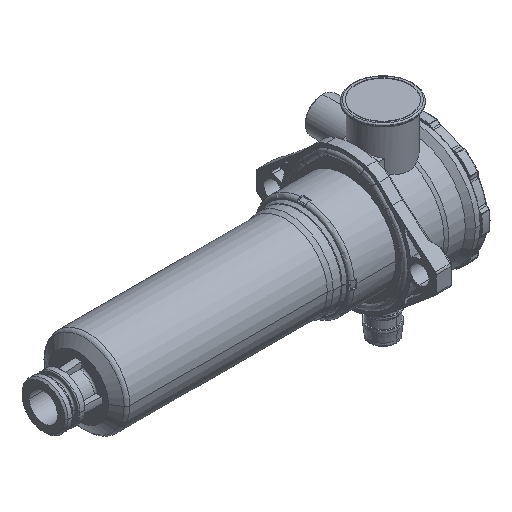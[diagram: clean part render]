
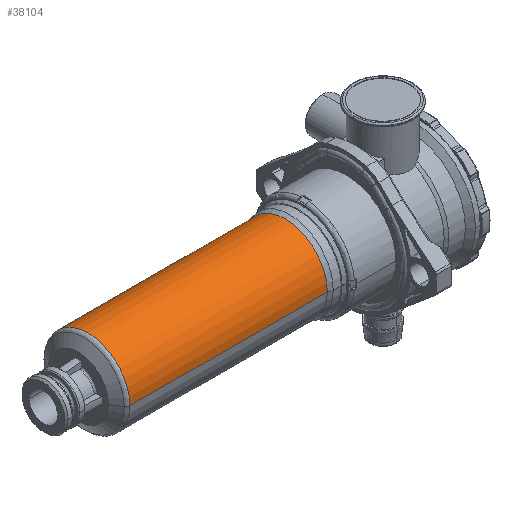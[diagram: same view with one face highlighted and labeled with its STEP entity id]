
A CAD part, isometric view. The second image highlights one B-rep face of the part: STEP entity #38104.
In plain terms, the highlighted cylindrical face has radius 25.25 mm (diameter 50.5 mm), a partial arc.
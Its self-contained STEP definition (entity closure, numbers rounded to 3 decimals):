
#10544=CARTESIAN_POINT('',(-36.61,-0.001,
-0.126));
#10545=DIRECTION('',(-1.,0.,0.));
#10546=DIRECTION('',(0.,-1.,0.));
#10547=AXIS2_PLACEMENT_3D('',#10544,#10545,#10546);
#10582=DIRECTION('',(-1.,0.,0.));
#10583=VECTOR('',#10582,118.462);
#10584=CARTESIAN_POINT('',(-36.61,-25.251,
-0.126));
#10585=LINE('',#10584,#10583);
#10589=DIRECTION('',(-1.,0.,0.));
#10590=VECTOR('',#10589,118.462);
#10591=CARTESIAN_POINT('',(-36.61,25.249,
-0.126));
#10592=LINE('',#10591,#10590);
#10596=CARTESIAN_POINT('',(-155.072,-0.001,
-0.126));
#10597=DIRECTION('',(1.,0.,0.));
#10598=DIRECTION('',(0.,1.,0.));
#10599=AXIS2_PLACEMENT_3D('',#10596,#10597,#10598);
#23873=CARTESIAN_POINT('',(-155.072,-25.251,
-0.126));
#23874=VERTEX_POINT('',#23873);
#23875=CARTESIAN_POINT('',(-155.072,25.249,
-0.126));
#23876=VERTEX_POINT('',#23875);
#23877=CARTESIAN_POINT('',(-36.61,-25.251,
-0.126));
#23878=VERTEX_POINT('',#23877);
#23879=CARTESIAN_POINT('',(-36.61,25.249,
-0.126));
#23880=VERTEX_POINT('',#23879);
#38092=CARTESIAN_POINT('',(-95.841,-0.001,
-0.126));
#38093=DIRECTION('',(-1.,0.,0.));
#38094=DIRECTION('',(0.,1.,0.));
#38095=AXIS2_PLACEMENT_3D('',#38092,#38093,#38094);
#38096=CYLINDRICAL_SURFACE('',#38095,25.25);
#38097=ORIENTED_EDGE('',*,*,#38036,.F.);
#38098=ORIENTED_EDGE('',*,*,#38080,.T.);
#38100=ORIENTED_EDGE('',*,*,#38099,.F.);
#38101=ORIENTED_EDGE('',*,*,#38076,.F.);
#38102=EDGE_LOOP('',(#38097,#38098,#38100,#38101));
#38103=FACE_OUTER_BOUND('',#38102,.F.);
#10548=CIRCLE('',#10547,25.25);
#10600=CIRCLE('',#10599,25.25);
#38036=EDGE_CURVE('',#23878,#23880,#10548,.T.);
#38076=EDGE_CURVE('',#23880,#23876,#10592,.T.);
#38080=EDGE_CURVE('',#23878,#23874,#10585,.T.);
#38099=EDGE_CURVE('',#23876,#23874,#10600,.T.);
#38104=ADVANCED_FACE('',(#38103),#38096,.T.);
